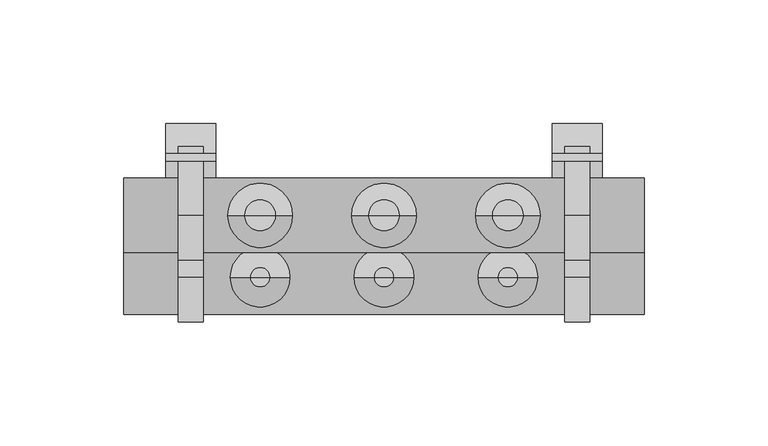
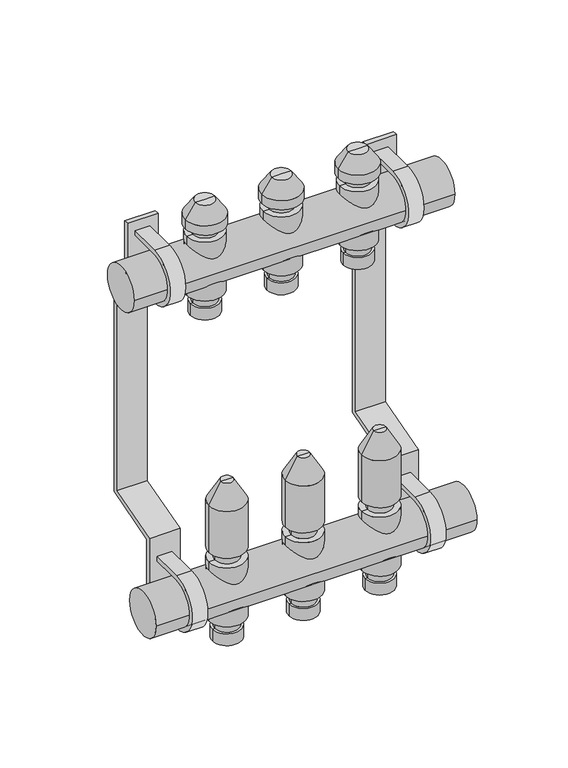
"""IFC4 building model written with IfcOpenShell, lengths in millimetres: valve geometry, PL CZ_Manifold_FT-VA : 03 circuits."""

from ifc_helpers import new_model, si_unit, point, frame, frame_2d, origin, origin_2d, place, context, project, spatial, polyline, circle_curve, trimmed, segment, composite_curve, outline, extrude, source, transform, mapped, element, save
from ifc_brep_helpers import plane_surface, cylinder_surface, revolved_surface, advanced_brep


def valve_d8e88841(model_context):
    return source(origin(), model_context, "Body", "SolidModel", [
        advanced_brep(
        [(78.5, 0.0, -35.11267), (97.5, 0.0, -35.11267), (88.0, 0.0, -35.11267), (78.5, 0.0, -27.0369646), (97.5, 0.0, -27.0369646), (80.0, 0.0, -27.0369646), (96.0, 0.0, -27.0369646), (80.0, 0.0, -20.330253), (96.0, 0.0, -20.330253), (76.0, 0.0, -20.330253), (100.0, 0.0, -20.330253), (76.0, 0.0, 20.330253), (100.0, 0.0, 20.330253), (80.0, 0.0, 20.330253), (96.0, 0.0, 20.330253), (80.0, 0.0, 27.0474786), (96.0, 0.0, 27.0474786), (76.0, 0.0, 27.0474786), (100.0, 0.0, 27.0474786), (76.0, 0.0, 59.4084325), (100.0, 0.0, 59.4084325), (84.0, 0.0, 73.264839), (92.0, 0.0, 73.264839), (88.0, 0.0, 73.264839)],
        [
            (0, 1, circle_curve(frame((88.0, 0.0, -35.11267), z_axis=(0.0, 0.0, -1.0), x_axis=(1.0, 0.0, 0.0)), 9.5)),
            (1, 2),
            (2, 0),
            (1, 0, circle_curve(frame((88.0, 0.0, -35.11267), z_axis=(0.0, 0.0, -1.0), x_axis=(1.0, 0.0, 0.0)), 9.5)),
            (3, 4, circle_curve(frame((88.0, 0.0, -27.0369646), z_axis=(0.0, 0.0, -1.0), x_axis=(1.0, 0.0, 0.0)), 9.5)),
            (4, 1),
            (0, 3),
            (4, 3, circle_curve(frame((88.0, 0.0, -27.0369646), z_axis=(0.0, 0.0, -1.0), x_axis=(1.0, 0.0, 0.0)), 9.5)),
            (5, 6, circle_curve(frame((88.0, 0.0, -27.0369646), z_axis=(0.0, 0.0, -1.0), x_axis=(1.0, 0.0, 0.0)), 8.0)),
            (6, 4),
            (3, 5),
            (6, 5, circle_curve(frame((88.0, 0.0, -27.0369646), z_axis=(0.0, 0.0, -1.0), x_axis=(1.0, 0.0, 0.0)), 8.0)),
            (7, 8, circle_curve(frame((88.0, 0.0, -20.330253), z_axis=(0.0, 0.0, -1.0), x_axis=(1.0, 0.0, 0.0)), 8.0)),
            (8, 6),
            (5, 7),
            (8, 7, circle_curve(frame((88.0, 0.0, -20.330253), z_axis=(0.0, 0.0, -1.0), x_axis=(1.0, 0.0, 0.0)), 8.0)),
            (9, 10, circle_curve(frame((88.0, 0.0, -20.330253), z_axis=(0.0, 0.0, -1.0), x_axis=(1.0, 0.0, 0.0)), 12.0)),
            (10, 8),
            (7, 9),
            (10, 9, circle_curve(frame((88.0, 0.0, -20.330253), z_axis=(0.0, 0.0, -1.0), x_axis=(1.0, 0.0, 0.0)), 12.0)),
            (11, 12, circle_curve(frame((88.0, 0.0, 20.330253), z_axis=(0.0, 0.0, -1.0), x_axis=(1.0, 0.0, 0.0)), 12.0)),
            (12, 10),
            (9, 11),
            (12, 11, circle_curve(frame((88.0, 0.0, 20.330253), z_axis=(0.0, 0.0, -1.0), x_axis=(1.0, 0.0, 0.0)), 12.0)),
            (13, 14, circle_curve(frame((88.0, 0.0, 20.330253), z_axis=(0.0, 0.0, -1.0), x_axis=(1.0, 0.0, 0.0)), 8.0)),
            (14, 12),
            (11, 13),
            (14, 13, circle_curve(frame((88.0, 0.0, 20.330253), z_axis=(0.0, 0.0, -1.0), x_axis=(1.0, 0.0, 0.0)), 8.0)),
            (15, 16, circle_curve(frame((88.0, 0.0, 27.0474786), z_axis=(0.0, 0.0, -1.0), x_axis=(1.0, 0.0, 0.0)), 8.0)),
            (16, 14),
            (13, 15),
            (16, 15, circle_curve(frame((88.0, 0.0, 27.0474786), z_axis=(0.0, 0.0, -1.0), x_axis=(1.0, 0.0, 0.0)), 8.0)),
            (17, 18, circle_curve(frame((88.0, 0.0, 27.0474786), z_axis=(0.0, 0.0, -1.0), x_axis=(1.0, 0.0, 0.0)), 12.0)),
            (18, 16),
            (15, 17),
            (18, 17, circle_curve(frame((88.0, 0.0, 27.0474786), z_axis=(0.0, 0.0, -1.0), x_axis=(1.0, 0.0, 0.0)), 12.0)),
            (19, 20, circle_curve(frame((88.0, 0.0, 59.4084325), z_axis=(0.0, 0.0, -1.0), x_axis=(1.0, 0.0, 0.0)), 12.0)),
            (20, 18),
            (17, 19),
            (20, 19, circle_curve(frame((88.0, 0.0, 59.4084325), z_axis=(0.0, 0.0, -1.0), x_axis=(1.0, 0.0, 0.0)), 12.0)),
            (21, 22, circle_curve(frame((88.0, 0.0, 73.264839), z_axis=(0.0, 0.0, -1.0), x_axis=(1.0, 0.0, 0.0)), 4.0)),
            (22, 20),
            (19, 21),
            (22, 21, circle_curve(frame((88.0, 0.0, 73.264839), z_axis=(0.0, 0.0, -1.0), x_axis=(1.0, 0.0, 0.0)), 4.0)),
            (23, 22),
            (21, 23),
        ],
        [
            plane_surface(frame((88.0, 0.0, -35.11267), z_axis=(0.0, 0.0, -1.0), x_axis=(1.0, 0.0, 0.0))),
            cylinder_surface(frame((88.0, 0.0, 58.264839), z_axis=(0.0, 0.0, 1.0), x_axis=(1.0, 0.0, 0.0)), 9.5),
            plane_surface(frame((88.0, 0.0, -27.0369646), z_axis=(0.0, 0.0, 1.0), x_axis=(1.0, 0.0, 0.0))),
            cylinder_surface(frame((88.0, 0.0, 58.264839), z_axis=(0.0, 0.0, 1.0), x_axis=(1.0, 0.0, 0.0)), 8.0),
            plane_surface(frame((88.0, 0.0, -20.330253), z_axis=(0.0, 0.0, -1.0), x_axis=(1.0, 0.0, 0.0))),
            cylinder_surface(frame((88.0, 0.0, 58.264839), z_axis=(0.0, 0.0, 1.0), x_axis=(1.0, 0.0, 0.0)), 12.0),
            plane_surface(frame((88.0, 0.0, 20.330253), z_axis=(0.0, 0.0, 1.0), x_axis=(1.0, 0.0, 0.0))),
            plane_surface(frame((88.0, 0.0, 27.0474786), z_axis=(0.0, 0.0, -1.0), x_axis=(1.0, 0.0, 0.0))),
            revolved_surface(polyline([(100.0, 0.0, 59.4084325), (92.0, 0.0, 73.264839)]), (88.0, 0.0, 58.264839), (0.0, 0.0, 1.0)),
            plane_surface(frame((88.0, 0.0, 73.264839), z_axis=(0.0, 0.0, 1.0), x_axis=(1.0, 0.0, 0.0))),
        ],
        [
            (0, [[1, 2, 3]]),
            (0, [[4, -3, -2]]),
            (1, [[5, 6, -1, 7]]),
            (1, [[8, -7, -4, -6]]),
            (2, [[9, 10, -5, 11]]),
            (2, [[12, -11, -8, -10]]),
            (3, [[13, 14, -9, 15]]),
            (3, [[16, -15, -12, -14]]),
            (4, [[17, 18, -13, 19]]),
            (4, [[20, -19, -16, -18]]),
            (5, [[21, 22, -17, 23]]),
            (5, [[24, -23, -20, -22]]),
            (6, [[25, 26, -21, 27]]),
            (6, [[28, -27, -24, -26]]),
            (3, [[29, 30, -25, 31]]),
            (3, [[32, -31, -28, -30]]),
            (7, [[33, 34, -29, 35]]),
            (7, [[36, -35, -32, -34]]),
            (5, [[37, 38, -33, 39]]),
            (5, [[40, -39, -36, -38]]),
            (8, [[41, 42, -37, 43]]),
            (8, [[44, -43, -40, -42]]),
            (9, [[45, -41, 46]]),
            (9, [[-46, -44, -45]]),
        ],
    ),
        advanced_brep(
        [(78.5, 25.0, 174.88733), (97.5, 25.0, 174.88733), (88.0, 25.0, 174.88733), (78.5, 25.0, 182.9630354), (97.5, 25.0, 182.9630354), (80.0, 25.0, 182.9630354), (96.0, 25.0, 182.9630354), (80.0, 25.0, 189.669747), (96.0, 25.0, 189.669747), (76.0, 25.0, 189.669747), (100.0, 25.0, 189.669747), (76.0, 25.0, 230.330253), (100.0, 25.0, 230.330253), (80.0, 25.0, 230.330253), (96.0, 25.0, 230.330253), (80.0, 25.0, 236.0474786), (96.0, 25.0, 236.0474786), (75.0, 25.0, 236.0474786), (101.0, 25.0, 236.0474786), (75.0, 25.0, 242.337955), (101.0, 25.0, 242.337955), (81.6551779, 25.0, 251.842534), (94.3448221, 25.0, 251.842534), (88.0, 25.0, 251.842534)],
        [
            (0, 1, circle_curve(frame((88.0, 25.0, 174.88733), z_axis=(0.0, 0.0, -1.0), x_axis=(1.0, 0.0, 0.0)), 9.5)),
            (1, 2),
            (2, 0),
            (1, 0, circle_curve(frame((88.0, 25.0, 174.88733), z_axis=(0.0, 0.0, -1.0), x_axis=(1.0, 0.0, 0.0)), 9.5)),
            (3, 4, circle_curve(frame((88.0, 25.0, 182.9630354), z_axis=(0.0, 0.0, -1.0), x_axis=(1.0, 0.0, 0.0)), 9.5)),
            (4, 1),
            (0, 3),
            (4, 3, circle_curve(frame((88.0, 25.0, 182.9630354), z_axis=(0.0, 0.0, -1.0), x_axis=(1.0, 0.0, 0.0)), 9.5)),
            (5, 6, circle_curve(frame((88.0, 25.0, 182.9630354), z_axis=(0.0, 0.0, -1.0), x_axis=(1.0, 0.0, 0.0)), 8.0)),
            (6, 4),
            (3, 5),
            (6, 5, circle_curve(frame((88.0, 25.0, 182.9630354), z_axis=(0.0, 0.0, -1.0), x_axis=(1.0, 0.0, 0.0)), 8.0)),
            (7, 8, circle_curve(frame((88.0, 25.0, 189.669747), z_axis=(0.0, 0.0, -1.0), x_axis=(1.0, 0.0, 0.0)), 8.0)),
            (8, 6),
            (5, 7),
            (8, 7, circle_curve(frame((88.0, 25.0, 189.669747), z_axis=(0.0, 0.0, -1.0), x_axis=(1.0, 0.0, 0.0)), 8.0)),
            (9, 10, circle_curve(frame((88.0, 25.0, 189.669747), z_axis=(0.0, 0.0, -1.0), x_axis=(1.0, 0.0, 0.0)), 12.0)),
            (10, 8),
            (7, 9),
            (10, 9, circle_curve(frame((88.0, 25.0, 189.669747), z_axis=(0.0, 0.0, -1.0), x_axis=(1.0, 0.0, 0.0)), 12.0)),
            (11, 12, circle_curve(frame((88.0, 25.0, 230.330253), z_axis=(0.0, 0.0, -1.0), x_axis=(1.0, 0.0, 0.0)), 12.0)),
            (12, 10),
            (9, 11),
            (12, 11, circle_curve(frame((88.0, 25.0, 230.330253), z_axis=(0.0, 0.0, -1.0), x_axis=(1.0, 0.0, 0.0)), 12.0)),
            (13, 14, circle_curve(frame((88.0, 25.0, 230.330253), z_axis=(0.0, 0.0, -1.0), x_axis=(1.0, 0.0, 0.0)), 8.0)),
            (14, 12),
            (11, 13),
            (14, 13, circle_curve(frame((88.0, 25.0, 230.330253), z_axis=(0.0, 0.0, -1.0), x_axis=(1.0, 0.0, 0.0)), 8.0)),
            (15, 16, circle_curve(frame((88.0, 25.0, 236.0474786), z_axis=(0.0, 0.0, -1.0), x_axis=(1.0, 0.0, 0.0)), 8.0)),
            (16, 14),
            (13, 15),
            (16, 15, circle_curve(frame((88.0, 25.0, 236.0474786), z_axis=(0.0, 0.0, -1.0), x_axis=(1.0, 0.0, 0.0)), 8.0)),
            (17, 18, circle_curve(frame((88.0, 25.0, 236.0474786), z_axis=(0.0, 0.0, -1.0), x_axis=(1.0, 0.0, 0.0)), 13.0)),
            (18, 16),
            (15, 17),
            (18, 17, circle_curve(frame((88.0, 25.0, 236.0474786), z_axis=(0.0, 0.0, -1.0), x_axis=(1.0, 0.0, 0.0)), 13.0)),
            (19, 20, circle_curve(frame((88.0, 25.0, 242.337955), z_axis=(0.0, 0.0, -1.0), x_axis=(1.0, 0.0, 0.0)), 13.0)),
            (20, 18),
            (17, 19),
            (20, 19, circle_curve(frame((88.0, 25.0, 242.337955), z_axis=(0.0, 0.0, -1.0), x_axis=(1.0, 0.0, 0.0)), 13.0)),
            (21, 22, circle_curve(frame((88.0, 25.0, 251.842534), z_axis=(0.0, 0.0, -1.0), x_axis=(1.0, 0.0, 0.0)), 6.3448221)),
            (22, 20),
            (19, 21),
            (22, 21, circle_curve(frame((88.0, 25.0, 251.842534), z_axis=(0.0, 0.0, -1.0), x_axis=(1.0, 0.0, 0.0)), 6.3448221)),
            (23, 22),
            (21, 23),
        ],
        [
            plane_surface(frame((88.0, 25.0, 174.88733), z_axis=(0.0, 0.0, -1.0), x_axis=(1.0, 0.0, 0.0))),
            cylinder_surface(frame((88.0, 25.0, 247.7026565), z_axis=(0.0, 0.0, 1.0), x_axis=(1.0, 0.0, 0.0)), 9.5),
            plane_surface(frame((88.0, 25.0, 182.9630354), z_axis=(0.0, 0.0, 1.0), x_axis=(1.0, 0.0, 0.0))),
            cylinder_surface(frame((88.0, 25.0, 247.7026565), z_axis=(0.0, 0.0, 1.0), x_axis=(1.0, 0.0, 0.0)), 8.0),
            plane_surface(frame((88.0, 25.0, 189.669747), z_axis=(0.0, 0.0, -1.0), x_axis=(1.0, 0.0, 0.0))),
            cylinder_surface(frame((88.0, 25.0, 247.7026565), z_axis=(0.0, 0.0, 1.0), x_axis=(1.0, 0.0, 0.0)), 12.0),
            plane_surface(frame((88.0, 25.0, 230.330253), z_axis=(0.0, 0.0, 1.0), x_axis=(1.0, 0.0, 0.0))),
            plane_surface(frame((88.0, 25.0, 236.0474786), z_axis=(0.0, 0.0, -1.0), x_axis=(1.0, 0.0, 0.0))),
            cylinder_surface(frame((88.0, 25.0, 247.7026565), z_axis=(0.0, 0.0, 1.0), x_axis=(1.0, 0.0, 0.0)), 13.0),
            revolved_surface(polyline([(101.0, 25.0, 242.337955), (94.3448221, 25.0, 251.842534)]), (88.0, 25.0, 247.7026565), (0.0, 0.0, 1.0)),
            plane_surface(frame((88.0, 25.0, 251.842534), z_axis=(0.0, 0.0, 1.0), x_axis=(1.0, 0.0, 0.0))),
        ],
        [
            (0, [[1, 2, 3]]),
            (0, [[4, -3, -2]]),
            (1, [[5, 6, -1, 7]]),
            (1, [[8, -7, -4, -6]]),
            (2, [[9, 10, -5, 11]]),
            (2, [[12, -11, -8, -10]]),
            (3, [[13, 14, -9, 15]]),
            (3, [[16, -15, -12, -14]]),
            (4, [[17, 18, -13, 19]]),
            (4, [[20, -19, -16, -18]]),
            (5, [[21, 22, -17, 23]]),
            (5, [[24, -23, -20, -22]]),
            (6, [[25, 26, -21, 27]]),
            (6, [[28, -27, -24, -26]]),
            (3, [[29, 30, -25, 31]]),
            (3, [[32, -31, -28, -30]]),
            (7, [[33, 34, -29, 35]]),
            (7, [[36, -35, -32, -34]]),
            (8, [[37, 38, -33, 39]]),
            (8, [[40, -39, -36, -38]]),
            (9, [[41, 42, -37, 43]]),
            (9, [[44, -43, -40, -42]]),
            (10, [[45, -41, 46]]),
            (10, [[-46, -44, -45]]),
        ],
    ),
        advanced_brep(
        [(128.5, 0.0, -35.11267), (147.5, 0.0, -35.11267), (138.0, 0.0, -35.11267), (128.5, 0.0, -27.0369646), (147.5, 0.0, -27.0369646), (130.0, 0.0, -27.0369646), (146.0, 0.0, -27.0369646), (130.0, 0.0, -20.330253), (146.0, 0.0, -20.330253), (126.0, 0.0, -20.330253), (150.0, 0.0, -20.330253), (126.0, 0.0, 20.330253), (150.0, 0.0, 20.330253), (130.0, 0.0, 20.330253), (146.0, 0.0, 20.330253), (130.0, 0.0, 27.0474786), (146.0, 0.0, 27.0474786), (126.0, 0.0, 27.0474786), (150.0, 0.0, 27.0474786), (126.0, 0.0, 59.4084325), (150.0, 0.0, 59.4084325), (134.0, 0.0, 73.264839), (142.0, 0.0, 73.264839), (138.0, 0.0, 73.264839)],
        [
            (0, 1, circle_curve(frame((138.0, 0.0, -35.11267), z_axis=(0.0, 0.0, -1.0), x_axis=(1.0, 0.0, 0.0)), 9.5)),
            (1, 2),
            (2, 0),
            (1, 0, circle_curve(frame((138.0, 0.0, -35.11267), z_axis=(0.0, 0.0, -1.0), x_axis=(1.0, 0.0, 0.0)), 9.5)),
            (3, 4, circle_curve(frame((138.0, 0.0, -27.0369646), z_axis=(0.0, 0.0, -1.0), x_axis=(1.0, 0.0, 0.0)), 9.5)),
            (4, 1),
            (0, 3),
            (4, 3, circle_curve(frame((138.0, 0.0, -27.0369646), z_axis=(0.0, 0.0, -1.0), x_axis=(1.0, 0.0, 0.0)), 9.5)),
            (5, 6, circle_curve(frame((138.0, 0.0, -27.0369646), z_axis=(0.0, 0.0, -1.0), x_axis=(1.0, 0.0, 0.0)), 8.0)),
            (6, 4),
            (3, 5),
            (6, 5, circle_curve(frame((138.0, 0.0, -27.0369646), z_axis=(0.0, 0.0, -1.0), x_axis=(1.0, 0.0, 0.0)), 8.0)),
            (7, 8, circle_curve(frame((138.0, 0.0, -20.330253), z_axis=(0.0, 0.0, -1.0), x_axis=(1.0, 0.0, 0.0)), 8.0)),
            (8, 6),
            (5, 7),
            (8, 7, circle_curve(frame((138.0, 0.0, -20.330253), z_axis=(0.0, 0.0, -1.0), x_axis=(1.0, 0.0, 0.0)), 8.0)),
            (9, 10, circle_curve(frame((138.0, 0.0, -20.330253), z_axis=(0.0, 0.0, -1.0), x_axis=(1.0, 0.0, 0.0)), 12.0)),
            (10, 8),
            (7, 9),
            (10, 9, circle_curve(frame((138.0, 0.0, -20.330253), z_axis=(0.0, 0.0, -1.0), x_axis=(1.0, 0.0, 0.0)), 12.0)),
            (11, 12, circle_curve(frame((138.0, 0.0, 20.330253), z_axis=(0.0, 0.0, -1.0), x_axis=(1.0, 0.0, 0.0)), 12.0)),
            (12, 10),
            (9, 11),
            (12, 11, circle_curve(frame((138.0, 0.0, 20.330253), z_axis=(0.0, 0.0, -1.0), x_axis=(1.0, 0.0, 0.0)), 12.0)),
            (13, 14, circle_curve(frame((138.0, 0.0, 20.330253), z_axis=(0.0, 0.0, -1.0), x_axis=(1.0, 0.0, 0.0)), 8.0)),
            (14, 12),
            (11, 13),
            (14, 13, circle_curve(frame((138.0, 0.0, 20.330253), z_axis=(0.0, 0.0, -1.0), x_axis=(1.0, 0.0, 0.0)), 8.0)),
            (15, 16, circle_curve(frame((138.0, 0.0, 27.0474786), z_axis=(0.0, 0.0, -1.0), x_axis=(1.0, 0.0, 0.0)), 8.0)),
            (16, 14),
            (13, 15),
            (16, 15, circle_curve(frame((138.0, 0.0, 27.0474786), z_axis=(0.0, 0.0, -1.0), x_axis=(1.0, 0.0, 0.0)), 8.0)),
            (17, 18, circle_curve(frame((138.0, 0.0, 27.0474786), z_axis=(0.0, 0.0, -1.0), x_axis=(1.0, 0.0, 0.0)), 12.0)),
            (18, 16),
            (15, 17),
            (18, 17, circle_curve(frame((138.0, 0.0, 27.0474786), z_axis=(0.0, 0.0, -1.0), x_axis=(1.0, 0.0, 0.0)), 12.0)),
            (19, 20, circle_curve(frame((138.0, 0.0, 59.4084325), z_axis=(0.0, 0.0, -1.0), x_axis=(1.0, 0.0, 0.0)), 12.0)),
            (20, 18),
            (17, 19),
            (20, 19, circle_curve(frame((138.0, 0.0, 59.4084325), z_axis=(0.0, 0.0, -1.0), x_axis=(1.0, 0.0, 0.0)), 12.0)),
            (21, 22, circle_curve(frame((138.0, 0.0, 73.264839), z_axis=(0.0, 0.0, -1.0), x_axis=(1.0, 0.0, 0.0)), 4.0)),
            (22, 20),
            (19, 21),
            (22, 21, circle_curve(frame((138.0, 0.0, 73.264839), z_axis=(0.0, 0.0, -1.0), x_axis=(1.0, 0.0, 0.0)), 4.0)),
            (23, 22),
            (21, 23),
        ],
        [
            plane_surface(frame((138.0, 0.0, -35.11267), z_axis=(0.0, 0.0, -1.0), x_axis=(1.0, 0.0, 0.0))),
            cylinder_surface(frame((138.0, 0.0, 58.264839), z_axis=(0.0, 0.0, 1.0), x_axis=(1.0, 0.0, 0.0)), 9.5),
            plane_surface(frame((138.0, 0.0, -27.0369646), z_axis=(0.0, 0.0, 1.0), x_axis=(1.0, 0.0, 0.0))),
            cylinder_surface(frame((138.0, 0.0, 58.264839), z_axis=(0.0, 0.0, 1.0), x_axis=(1.0, 0.0, 0.0)), 8.0),
            plane_surface(frame((138.0, 0.0, -20.330253), z_axis=(0.0, 0.0, -1.0), x_axis=(1.0, 0.0, 0.0))),
            cylinder_surface(frame((138.0, 0.0, 58.264839), z_axis=(0.0, 0.0, 1.0), x_axis=(1.0, 0.0, 0.0)), 12.0),
            plane_surface(frame((138.0, 0.0, 20.330253), z_axis=(0.0, 0.0, 1.0), x_axis=(1.0, 0.0, 0.0))),
            plane_surface(frame((138.0, 0.0, 27.0474786), z_axis=(0.0, 0.0, -1.0), x_axis=(1.0, 0.0, 0.0))),
            revolved_surface(polyline([(150.0, 0.0, 59.4084325), (142.0, 0.0, 73.264839)]), (138.0, 0.0, 58.264839), (0.0, 0.0, 1.0)),
            plane_surface(frame((138.0, 0.0, 73.264839), z_axis=(0.0, 0.0, 1.0), x_axis=(1.0, 0.0, 0.0))),
        ],
        [
            (0, [[1, 2, 3]]),
            (0, [[4, -3, -2]]),
            (1, [[5, 6, -1, 7]]),
            (1, [[8, -7, -4, -6]]),
            (2, [[9, 10, -5, 11]]),
            (2, [[12, -11, -8, -10]]),
            (3, [[13, 14, -9, 15]]),
            (3, [[16, -15, -12, -14]]),
            (4, [[17, 18, -13, 19]]),
            (4, [[20, -19, -16, -18]]),
            (5, [[21, 22, -17, 23]]),
            (5, [[24, -23, -20, -22]]),
            (6, [[25, 26, -21, 27]]),
            (6, [[28, -27, -24, -26]]),
            (3, [[29, 30, -25, 31]]),
            (3, [[32, -31, -28, -30]]),
            (7, [[33, 34, -29, 35]]),
            (7, [[36, -35, -32, -34]]),
            (5, [[37, 38, -33, 39]]),
            (5, [[40, -39, -36, -38]]),
            (8, [[41, 42, -37, 43]]),
            (8, [[44, -43, -40, -42]]),
            (9, [[45, -41, 46]]),
            (9, [[-46, -44, -45]]),
        ],
    ),
        advanced_brep(
        [(128.5, 25.0, 174.88733), (147.5, 25.0, 174.88733), (138.0, 25.0, 174.88733), (128.5, 25.0, 182.9630354), (147.5, 25.0, 182.9630354), (130.0, 25.0, 182.9630354), (146.0, 25.0, 182.9630354), (130.0, 25.0, 189.669747), (146.0, 25.0, 189.669747), (126.0, 25.0, 189.669747), (150.0, 25.0, 189.669747), (126.0, 25.0, 230.330253), (150.0, 25.0, 230.330253), (130.0, 25.0, 230.330253), (146.0, 25.0, 230.330253), (130.0, 25.0, 236.0474786), (146.0, 25.0, 236.0474786), (125.0, 25.0, 236.0474786), (151.0, 25.0, 236.0474786), (125.0, 25.0, 242.337955), (151.0, 25.0, 242.337955), (131.6551779, 25.0, 251.842534), (144.3448221, 25.0, 251.842534), (138.0, 25.0, 251.842534)],
        [
            (0, 1, circle_curve(frame((138.0, 25.0, 174.88733), z_axis=(0.0, 0.0, -1.0), x_axis=(1.0, 0.0, 0.0)), 9.5)),
            (1, 2),
            (2, 0),
            (1, 0, circle_curve(frame((138.0, 25.0, 174.88733), z_axis=(0.0, 0.0, -1.0), x_axis=(1.0, 0.0, 0.0)), 9.5)),
            (3, 4, circle_curve(frame((138.0, 25.0, 182.9630354), z_axis=(0.0, 0.0, -1.0), x_axis=(1.0, 0.0, 0.0)), 9.5)),
            (4, 1),
            (0, 3),
            (4, 3, circle_curve(frame((138.0, 25.0, 182.9630354), z_axis=(0.0, 0.0, -1.0), x_axis=(1.0, 0.0, 0.0)), 9.5)),
            (5, 6, circle_curve(frame((138.0, 25.0, 182.9630354), z_axis=(0.0, 0.0, -1.0), x_axis=(1.0, 0.0, 0.0)), 8.0)),
            (6, 4),
            (3, 5),
            (6, 5, circle_curve(frame((138.0, 25.0, 182.9630354), z_axis=(0.0, 0.0, -1.0), x_axis=(1.0, 0.0, 0.0)), 8.0)),
            (7, 8, circle_curve(frame((138.0, 25.0, 189.669747), z_axis=(0.0, 0.0, -1.0), x_axis=(1.0, 0.0, 0.0)), 8.0)),
            (8, 6),
            (5, 7),
            (8, 7, circle_curve(frame((138.0, 25.0, 189.669747), z_axis=(0.0, 0.0, -1.0), x_axis=(1.0, 0.0, 0.0)), 8.0)),
            (9, 10, circle_curve(frame((138.0, 25.0, 189.669747), z_axis=(0.0, 0.0, -1.0), x_axis=(1.0, 0.0, 0.0)), 12.0)),
            (10, 8),
            (7, 9),
            (10, 9, circle_curve(frame((138.0, 25.0, 189.669747), z_axis=(0.0, 0.0, -1.0), x_axis=(1.0, 0.0, 0.0)), 12.0)),
            (11, 12, circle_curve(frame((138.0, 25.0, 230.330253), z_axis=(0.0, 0.0, -1.0), x_axis=(1.0, 0.0, 0.0)), 12.0)),
            (12, 10),
            (9, 11),
            (12, 11, circle_curve(frame((138.0, 25.0, 230.330253), z_axis=(0.0, 0.0, -1.0), x_axis=(1.0, 0.0, 0.0)), 12.0)),
            (13, 14, circle_curve(frame((138.0, 25.0, 230.330253), z_axis=(0.0, 0.0, -1.0), x_axis=(1.0, 0.0, 0.0)), 8.0)),
            (14, 12),
            (11, 13),
            (14, 13, circle_curve(frame((138.0, 25.0, 230.330253), z_axis=(0.0, 0.0, -1.0), x_axis=(1.0, 0.0, 0.0)), 8.0)),
            (15, 16, circle_curve(frame((138.0, 25.0, 236.0474786), z_axis=(0.0, 0.0, -1.0), x_axis=(1.0, 0.0, 0.0)), 8.0)),
            (16, 14),
            (13, 15),
            (16, 15, circle_curve(frame((138.0, 25.0, 236.0474786), z_axis=(0.0, 0.0, -1.0), x_axis=(1.0, 0.0, 0.0)), 8.0)),
            (17, 18, circle_curve(frame((138.0, 25.0, 236.0474786), z_axis=(0.0, 0.0, -1.0), x_axis=(1.0, 0.0, 0.0)), 13.0)),
            (18, 16),
            (15, 17),
            (18, 17, circle_curve(frame((138.0, 25.0, 236.0474786), z_axis=(0.0, 0.0, -1.0), x_axis=(1.0, 0.0, 0.0)), 13.0)),
            (19, 20, circle_curve(frame((138.0, 25.0, 242.337955), z_axis=(0.0, 0.0, -1.0), x_axis=(1.0, 0.0, 0.0)), 13.0)),
            (20, 18),
            (17, 19),
            (20, 19, circle_curve(frame((138.0, 25.0, 242.337955), z_axis=(0.0, 0.0, -1.0), x_axis=(1.0, 0.0, 0.0)), 13.0)),
            (21, 22, circle_curve(frame((138.0, 25.0, 251.842534), z_axis=(0.0, 0.0, -1.0), x_axis=(1.0, 0.0, 0.0)), 6.3448221)),
            (22, 20),
            (19, 21),
            (22, 21, circle_curve(frame((138.0, 25.0, 251.842534), z_axis=(0.0, 0.0, -1.0), x_axis=(1.0, 0.0, 0.0)), 6.3448221)),
            (23, 22),
            (21, 23),
        ],
        [
            plane_surface(frame((138.0, 25.0, 174.88733), z_axis=(0.0, 0.0, -1.0), x_axis=(1.0, 0.0, 0.0))),
            cylinder_surface(frame((138.0, 25.0, 247.7026565), z_axis=(0.0, 0.0, 1.0), x_axis=(1.0, 0.0, 0.0)), 9.5),
            plane_surface(frame((138.0, 25.0, 182.9630354), z_axis=(0.0, 0.0, 1.0), x_axis=(1.0, 0.0, 0.0))),
            cylinder_surface(frame((138.0, 25.0, 247.7026565), z_axis=(0.0, 0.0, 1.0), x_axis=(1.0, 0.0, 0.0)), 8.0),
            plane_surface(frame((138.0, 25.0, 189.669747), z_axis=(0.0, 0.0, -1.0), x_axis=(1.0, 0.0, 0.0))),
            cylinder_surface(frame((138.0, 25.0, 247.7026565), z_axis=(0.0, 0.0, 1.0), x_axis=(1.0, 0.0, 0.0)), 12.0),
            plane_surface(frame((138.0, 25.0, 230.330253), z_axis=(0.0, 0.0, 1.0), x_axis=(1.0, 0.0, 0.0))),
            plane_surface(frame((138.0, 25.0, 236.0474786), z_axis=(0.0, 0.0, -1.0), x_axis=(1.0, 0.0, 0.0))),
            cylinder_surface(frame((138.0, 25.0, 247.7026565), z_axis=(0.0, 0.0, 1.0), x_axis=(1.0, 0.0, 0.0)), 13.0),
            revolved_surface(polyline([(151.0, 25.0, 242.337955), (144.3448221, 25.0, 251.842534)]), (138.0, 25.0, 247.7026565), (0.0, 0.0, 1.0)),
            plane_surface(frame((138.0, 25.0, 251.842534), z_axis=(0.0, 0.0, 1.0), x_axis=(1.0, 0.0, 0.0))),
        ],
        [
            (0, [[1, 2, 3]]),
            (0, [[4, -3, -2]]),
            (1, [[5, 6, -1, 7]]),
            (1, [[8, -7, -4, -6]]),
            (2, [[9, 10, -5, 11]]),
            (2, [[12, -11, -8, -10]]),
            (3, [[13, 14, -9, 15]]),
            (3, [[16, -15, -12, -14]]),
            (4, [[17, 18, -13, 19]]),
            (4, [[20, -19, -16, -18]]),
            (5, [[21, 22, -17, 23]]),
            (5, [[24, -23, -20, -22]]),
            (6, [[25, 26, -21, 27]]),
            (6, [[28, -27, -24, -26]]),
            (3, [[29, 30, -25, 31]]),
            (3, [[32, -31, -28, -30]]),
            (7, [[33, 34, -29, 35]]),
            (7, [[36, -35, -32, -34]]),
            (8, [[37, 38, -33, 39]]),
            (8, [[40, -39, -36, -38]]),
            (9, [[41, 42, -37, 43]]),
            (9, [[44, -43, -40, -42]]),
            (10, [[45, -41, 46]]),
            (10, [[-46, -44, -45]]),
        ],
    ),
        advanced_brep(
        [(28.5, 25.0, 174.88733), (47.5, 25.0, 174.88733), (38.0, 25.0, 174.88733), (28.5, 25.0, 182.9630354), (47.5, 25.0, 182.9630354), (30.0, 25.0, 182.9630354), (46.0, 25.0, 182.9630354), (30.0, 25.0, 189.669747), (46.0, 25.0, 189.669747), (26.0, 25.0, 189.669747), (50.0, 25.0, 189.669747), (26.0, 25.0, 230.330253), (50.0, 25.0, 230.330253), (30.0, 25.0, 230.330253), (46.0, 25.0, 230.330253), (30.0, 25.0, 236.0474786), (46.0, 25.0, 236.0474786), (25.0, 25.0, 236.0474786), (51.0, 25.0, 236.0474786), (25.0, 25.0, 242.337955), (51.0, 25.0, 242.337955), (31.6551779, 25.0, 251.842534), (44.3448221, 25.0, 251.842534), (38.0, 25.0, 251.842534)],
        [
            (0, 1, circle_curve(frame((38.0, 25.0, 174.88733), z_axis=(0.0, 0.0, -1.0), x_axis=(1.0, 0.0, 0.0)), 9.5)),
            (1, 2),
            (2, 0),
            (1, 0, circle_curve(frame((38.0, 25.0, 174.88733), z_axis=(0.0, 0.0, -1.0), x_axis=(1.0, 0.0, 0.0)), 9.5)),
            (3, 4, circle_curve(frame((38.0, 25.0, 182.9630354), z_axis=(0.0, 0.0, -1.0), x_axis=(1.0, 0.0, 0.0)), 9.5)),
            (4, 1),
            (0, 3),
            (4, 3, circle_curve(frame((38.0, 25.0, 182.9630354), z_axis=(0.0, 0.0, -1.0), x_axis=(1.0, 0.0, 0.0)), 9.5)),
            (5, 6, circle_curve(frame((38.0, 25.0, 182.9630354), z_axis=(0.0, 0.0, -1.0), x_axis=(1.0, 0.0, 0.0)), 8.0)),
            (6, 4),
            (3, 5),
            (6, 5, circle_curve(frame((38.0, 25.0, 182.9630354), z_axis=(0.0, 0.0, -1.0), x_axis=(1.0, 0.0, 0.0)), 8.0)),
            (7, 8, circle_curve(frame((38.0, 25.0, 189.669747), z_axis=(0.0, 0.0, -1.0), x_axis=(1.0, 0.0, 0.0)), 8.0)),
            (8, 6),
            (5, 7),
            (8, 7, circle_curve(frame((38.0, 25.0, 189.669747), z_axis=(0.0, 0.0, -1.0), x_axis=(1.0, 0.0, 0.0)), 8.0)),
            (9, 10, circle_curve(frame((38.0, 25.0, 189.669747), z_axis=(0.0, 0.0, -1.0), x_axis=(1.0, 0.0, 0.0)), 12.0)),
            (10, 8),
            (7, 9),
            (10, 9, circle_curve(frame((38.0, 25.0, 189.669747), z_axis=(0.0, 0.0, -1.0), x_axis=(1.0, 0.0, 0.0)), 12.0)),
            (11, 12, circle_curve(frame((38.0, 25.0, 230.330253), z_axis=(0.0, 0.0, -1.0), x_axis=(1.0, 0.0, 0.0)), 12.0)),
            (12, 10),
            (9, 11),
            (12, 11, circle_curve(frame((38.0, 25.0, 230.330253), z_axis=(0.0, 0.0, -1.0), x_axis=(1.0, 0.0, 0.0)), 12.0)),
            (13, 14, circle_curve(frame((38.0, 25.0, 230.330253), z_axis=(0.0, 0.0, -1.0), x_axis=(1.0, 0.0, 0.0)), 8.0)),
            (14, 12),
            (11, 13),
            (14, 13, circle_curve(frame((38.0, 25.0, 230.330253), z_axis=(0.0, 0.0, -1.0), x_axis=(1.0, 0.0, 0.0)), 8.0)),
            (15, 16, circle_curve(frame((38.0, 25.0, 236.0474786), z_axis=(0.0, 0.0, -1.0), x_axis=(1.0, 0.0, 0.0)), 8.0)),
            (16, 14),
            (13, 15),
            (16, 15, circle_curve(frame((38.0, 25.0, 236.0474786), z_axis=(0.0, 0.0, -1.0), x_axis=(1.0, 0.0, 0.0)), 8.0)),
            (17, 18, circle_curve(frame((38.0, 25.0, 236.0474786), z_axis=(0.0, 0.0, -1.0), x_axis=(1.0, 0.0, 0.0)), 13.0)),
            (18, 16),
            (15, 17),
            (18, 17, circle_curve(frame((38.0, 25.0, 236.0474786), z_axis=(0.0, 0.0, -1.0), x_axis=(1.0, 0.0, 0.0)), 13.0)),
            (19, 20, circle_curve(frame((38.0, 25.0, 242.337955), z_axis=(0.0, 0.0, -1.0), x_axis=(1.0, 0.0, 0.0)), 13.0)),
            (20, 18),
            (17, 19),
            (20, 19, circle_curve(frame((38.0, 25.0, 242.337955), z_axis=(0.0, 0.0, -1.0), x_axis=(1.0, 0.0, 0.0)), 13.0)),
            (21, 22, circle_curve(frame((38.0, 25.0, 251.842534), z_axis=(0.0, 0.0, -1.0), x_axis=(1.0, 0.0, 0.0)), 6.3448221)),
            (22, 20),
            (19, 21),
            (22, 21, circle_curve(frame((38.0, 25.0, 251.842534), z_axis=(0.0, 0.0, -1.0), x_axis=(1.0, 0.0, 0.0)), 6.3448221)),
            (23, 22),
            (21, 23),
        ],
        [
            plane_surface(frame((38.0, 25.0, 174.88733), z_axis=(0.0, 0.0, -1.0), x_axis=(1.0, 0.0, 0.0))),
            cylinder_surface(frame((38.0, 25.0, 247.7026565), z_axis=(0.0, 0.0, 1.0), x_axis=(1.0, 0.0, 0.0)), 9.5),
            plane_surface(frame((38.0, 25.0, 182.9630354), z_axis=(0.0, 0.0, 1.0), x_axis=(1.0, 0.0, 0.0))),
            cylinder_surface(frame((38.0, 25.0, 247.7026565), z_axis=(0.0, 0.0, 1.0), x_axis=(1.0, 0.0, 0.0)), 8.0),
            plane_surface(frame((38.0, 25.0, 189.669747), z_axis=(0.0, 0.0, -1.0), x_axis=(1.0, 0.0, 0.0))),
            cylinder_surface(frame((38.0, 25.0, 247.7026565), z_axis=(0.0, 0.0, 1.0), x_axis=(1.0, 0.0, 0.0)), 12.0),
            plane_surface(frame((38.0, 25.0, 230.330253), z_axis=(0.0, 0.0, 1.0), x_axis=(1.0, 0.0, 0.0))),
            plane_surface(frame((38.0, 25.0, 236.0474786), z_axis=(0.0, 0.0, -1.0), x_axis=(1.0, 0.0, 0.0))),
            cylinder_surface(frame((38.0, 25.0, 247.7026565), z_axis=(0.0, 0.0, 1.0), x_axis=(1.0, 0.0, 0.0)), 13.0),
            revolved_surface(polyline([(51.0, 25.0, 242.337955), (44.3448221, 25.0, 251.842534)]), (38.0, 25.0, 247.7026565), (0.0, 0.0, 1.0)),
            plane_surface(frame((38.0, 25.0, 251.842534), z_axis=(0.0, 0.0, 1.0), x_axis=(1.0, 0.0, 0.0))),
        ],
        [
            (0, [[1, 2, 3]]),
            (0, [[4, -3, -2]]),
            (1, [[5, 6, -1, 7]]),
            (1, [[8, -7, -4, -6]]),
            (2, [[9, 10, -5, 11]]),
            (2, [[12, -11, -8, -10]]),
            (3, [[13, 14, -9, 15]]),
            (3, [[16, -15, -12, -14]]),
            (4, [[17, 18, -13, 19]]),
            (4, [[20, -19, -16, -18]]),
            (5, [[21, 22, -17, 23]]),
            (5, [[24, -23, -20, -22]]),
            (6, [[25, 26, -21, 27]]),
            (6, [[28, -27, -24, -26]]),
            (3, [[29, 30, -25, 31]]),
            (3, [[32, -31, -28, -30]]),
            (7, [[33, 34, -29, 35]]),
            (7, [[36, -35, -32, -34]]),
            (8, [[37, 38, -33, 39]]),
            (8, [[40, -39, -36, -38]]),
            (9, [[41, 42, -37, 43]]),
            (9, [[44, -43, -40, -42]]),
            (10, [[45, -41, 46]]),
            (10, [[-46, -44, -45]]),
        ],
    ),
        advanced_brep(
        [(28.5, 0.0, -35.11267), (47.5, 0.0, -35.11267), (38.0, 0.0, -35.11267), (28.5, 0.0, -27.0369646), (47.5, 0.0, -27.0369646), (30.0, 0.0, -27.0369646), (46.0, 0.0, -27.0369646), (30.0, 0.0, -20.330253), (46.0, 0.0, -20.330253), (26.0, 0.0, -20.330253), (50.0, 0.0, -20.330253), (26.0, 0.0, 20.330253), (50.0, 0.0, 20.330253), (30.0, 0.0, 20.330253), (46.0, 0.0, 20.330253), (30.0, 0.0, 27.0474786), (46.0, 0.0, 27.0474786), (26.0, 0.0, 27.0474786), (50.0, 0.0, 27.0474786), (26.0, 0.0, 59.4084325), (50.0, 0.0, 59.4084325), (34.0, 0.0, 73.264839), (42.0, 0.0, 73.264839), (38.0, 0.0, 73.264839)],
        [
            (0, 1, circle_curve(frame((38.0, 0.0, -35.11267), z_axis=(0.0, 0.0, -1.0), x_axis=(1.0, 0.0, 0.0)), 9.5)),
            (1, 2),
            (2, 0),
            (1, 0, circle_curve(frame((38.0, 0.0, -35.11267), z_axis=(0.0, 0.0, -1.0), x_axis=(1.0, 0.0, 0.0)), 9.5)),
            (3, 4, circle_curve(frame((38.0, 0.0, -27.0369646), z_axis=(0.0, 0.0, -1.0), x_axis=(1.0, 0.0, 0.0)), 9.5)),
            (4, 1),
            (0, 3),
            (4, 3, circle_curve(frame((38.0, 0.0, -27.0369646), z_axis=(0.0, 0.0, -1.0), x_axis=(1.0, 0.0, 0.0)), 9.5)),
            (5, 6, circle_curve(frame((38.0, 0.0, -27.0369646), z_axis=(0.0, 0.0, -1.0), x_axis=(1.0, 0.0, 0.0)), 8.0)),
            (6, 4),
            (3, 5),
            (6, 5, circle_curve(frame((38.0, 0.0, -27.0369646), z_axis=(0.0, 0.0, -1.0), x_axis=(1.0, 0.0, 0.0)), 8.0)),
            (7, 8, circle_curve(frame((38.0, 0.0, -20.330253), z_axis=(0.0, 0.0, -1.0), x_axis=(1.0, 0.0, 0.0)), 8.0)),
            (8, 6),
            (5, 7),
            (8, 7, circle_curve(frame((38.0, 0.0, -20.330253), z_axis=(0.0, 0.0, -1.0), x_axis=(1.0, 0.0, 0.0)), 8.0)),
            (9, 10, circle_curve(frame((38.0, 0.0, -20.330253), z_axis=(0.0, 0.0, -1.0), x_axis=(1.0, 0.0, 0.0)), 12.0)),
            (10, 8),
            (7, 9),
            (10, 9, circle_curve(frame((38.0, 0.0, -20.330253), z_axis=(0.0, 0.0, -1.0), x_axis=(1.0, 0.0, 0.0)), 12.0)),
            (11, 12, circle_curve(frame((38.0, 0.0, 20.330253), z_axis=(0.0, 0.0, -1.0), x_axis=(1.0, 0.0, 0.0)), 12.0)),
            (12, 10),
            (9, 11),
            (12, 11, circle_curve(frame((38.0, 0.0, 20.330253), z_axis=(0.0, 0.0, -1.0), x_axis=(1.0, 0.0, 0.0)), 12.0)),
            (13, 14, circle_curve(frame((38.0, 0.0, 20.330253), z_axis=(0.0, 0.0, -1.0), x_axis=(1.0, 0.0, 0.0)), 8.0)),
            (14, 12),
            (11, 13),
            (14, 13, circle_curve(frame((38.0, 0.0, 20.330253), z_axis=(0.0, 0.0, -1.0), x_axis=(1.0, 0.0, 0.0)), 8.0)),
            (15, 16, circle_curve(frame((38.0, 0.0, 27.0474786), z_axis=(0.0, 0.0, -1.0), x_axis=(1.0, 0.0, 0.0)), 8.0)),
            (16, 14),
            (13, 15),
            (16, 15, circle_curve(frame((38.0, 0.0, 27.0474786), z_axis=(0.0, 0.0, -1.0), x_axis=(1.0, 0.0, 0.0)), 8.0)),
            (17, 18, circle_curve(frame((38.0, 0.0, 27.0474786), z_axis=(0.0, 0.0, -1.0), x_axis=(1.0, 0.0, 0.0)), 12.0)),
            (18, 16),
            (15, 17),
            (18, 17, circle_curve(frame((38.0, 0.0, 27.0474786), z_axis=(0.0, 0.0, -1.0), x_axis=(1.0, 0.0, 0.0)), 12.0)),
            (19, 20, circle_curve(frame((38.0, 0.0, 59.4084325), z_axis=(0.0, 0.0, -1.0), x_axis=(1.0, 0.0, 0.0)), 12.0)),
            (20, 18),
            (17, 19),
            (20, 19, circle_curve(frame((38.0, 0.0, 59.4084325), z_axis=(0.0, 0.0, -1.0), x_axis=(1.0, 0.0, 0.0)), 12.0)),
            (21, 22, circle_curve(frame((38.0, 0.0, 73.264839), z_axis=(0.0, 0.0, -1.0), x_axis=(1.0, 0.0, 0.0)), 4.0)),
            (22, 20),
            (19, 21),
            (22, 21, circle_curve(frame((38.0, 0.0, 73.264839), z_axis=(0.0, 0.0, -1.0), x_axis=(1.0, 0.0, 0.0)), 4.0)),
            (23, 22),
            (21, 23),
        ],
        [
            plane_surface(frame((38.0, 0.0, -35.11267), z_axis=(0.0, 0.0, -1.0), x_axis=(1.0, 0.0, 0.0))),
            cylinder_surface(frame((38.0, 0.0, 58.264839), z_axis=(0.0, 0.0, 1.0), x_axis=(1.0, 0.0, 0.0)), 9.5),
            plane_surface(frame((38.0, 0.0, -27.0369646), z_axis=(0.0, 0.0, 1.0), x_axis=(1.0, 0.0, 0.0))),
            cylinder_surface(frame((38.0, 0.0, 58.264839), z_axis=(0.0, 0.0, 1.0), x_axis=(1.0, 0.0, 0.0)), 8.0),
            plane_surface(frame((38.0, 0.0, -20.330253), z_axis=(0.0, 0.0, -1.0), x_axis=(1.0, 0.0, 0.0))),
            cylinder_surface(frame((38.0, 0.0, 58.264839), z_axis=(0.0, 0.0, 1.0), x_axis=(1.0, 0.0, 0.0)), 12.0),
            plane_surface(frame((38.0, 0.0, 20.330253), z_axis=(0.0, 0.0, 1.0), x_axis=(1.0, 0.0, 0.0))),
            plane_surface(frame((38.0, 0.0, 27.0474786), z_axis=(0.0, 0.0, -1.0), x_axis=(1.0, 0.0, 0.0))),
            revolved_surface(polyline([(50.0, 0.0, 59.4084325), (42.0, 0.0, 73.264839)]), (38.0, 0.0, 58.264839), (0.0, 0.0, 1.0)),
            plane_surface(frame((38.0, 0.0, 73.264839), z_axis=(0.0, 0.0, 1.0), x_axis=(1.0, 0.0, 0.0))),
        ],
        [
            (0, [[1, 2, 3]]),
            (0, [[4, -3, -2]]),
            (1, [[5, 6, -1, 7]]),
            (1, [[8, -7, -4, -6]]),
            (2, [[9, 10, -5, 11]]),
            (2, [[12, -11, -8, -10]]),
            (3, [[13, 14, -9, 15]]),
            (3, [[16, -15, -12, -14]]),
            (4, [[17, 18, -13, 19]]),
            (4, [[20, -19, -16, -18]]),
            (5, [[21, 22, -17, 23]]),
            (5, [[24, -23, -20, -22]]),
            (6, [[25, 26, -21, 27]]),
            (6, [[28, -27, -24, -26]]),
            (3, [[29, 30, -25, 31]]),
            (3, [[32, -31, -28, -30]]),
            (7, [[33, 34, -29, 35]]),
            (7, [[36, -35, -32, -34]]),
            (5, [[37, 38, -33, 39]]),
            (5, [[40, -39, -36, -38]]),
            (8, [[41, 42, -37, 43]]),
            (8, [[44, -43, -40, -42]]),
            (9, [[45, -41, 46]]),
            (9, [[-46, -44, -45]]),
        ],
    ),
        extrude(outline(composite_curve([segment(trimmed(circle_curve(origin_2d(), 15.0), [point((0.0, 15.0))], [point((0.0, -15.0))], True, "CARTESIAN"), True, "CONTINUOUS"), segment(polyline([(0.0, -15.0), (27.6751284, -15.0), (27.6751284, -18.0), (0.0, -18.0)]), True, "CONTINUOUS"), segment(trimmed(circle_curve(origin_2d(), 18.0), [point((0.0, -18.0))], [point((0.0, 18.0))], False, "CARTESIAN"), True, "CONTINUOUS"), segment(polyline([(0.0, 18.0), (27.6751284, 18.0), (27.6751284, 15.0), (0.0, 15.0)]), True, "CONTINUOUS")], self_intersect=False)), frame((161.0, 0.0, 0.0), z_axis=(1.0, 0.0, 0.0), x_axis=(0.0, 1.0, 0.0)), (0.0, 0.0, 1.0), 10.0),
        extrude(outline(composite_curve([segment(trimmed(circle_curve(frame_2d((25.0, 210.0)), 15.0), [point((25.0, 225.0))], [point((25.0, 195.0))], True, "CARTESIAN"), True, "CONTINUOUS"), segment(polyline([(25.0, 195.0), (52.6751284, 195.0), (52.6751284, 192.0), (25.0, 192.0)]), True, "CONTINUOUS"), segment(trimmed(circle_curve(frame_2d((25.0, 210.0)), 18.0), [point((25.0, 192.0))], [point((25.0, 228.0))], False, "CARTESIAN"), True, "CONTINUOUS"), segment(polyline([(25.0, 228.0), (52.6751284, 228.0), (52.6751284, 225.0), (25.0, 225.0)]), True, "CONTINUOUS")], self_intersect=False)), frame((161.0, 0.0, 0.0), z_axis=(1.0, 0.0, 0.0), x_axis=(0.0, 1.0, 0.0)), (0.0, 0.0, 1.0), 10.0),
        extrude(outline(polyline([(62.0, 182.8840762), (62.0, 40.6095793), (25.0, 30.0), (25.0, -30.0), (22.0, -30.0), (22.0, 32.2606622), (59.0, 42.8702414), (59.0, 180.3667773), (47.0, 182.4827011), (47.0, 235.0), (50.0, 235.0), (50.0, 185.0), (62.0, 182.8840762)])), frame((156.0, 0.0, 0.0), z_axis=(1.0, 0.0, 0.0), x_axis=(0.0, 1.0, 0.0)), (0.0, 0.0, 1.0), 20.0),
        extrude(outline(composite_curve([segment(trimmed(circle_curve(origin_2d(), 15.0), [point((0.0, 15.0))], [point((0.0, -15.0))], True, "CARTESIAN"), True, "CONTINUOUS"), segment(polyline([(0.0, -15.0), (27.6751284, -15.0), (27.6751284, -18.0), (0.0, -18.0)]), True, "CONTINUOUS"), segment(trimmed(circle_curve(origin_2d(), 18.0), [point((0.0, -18.0))], [point((0.0, 18.0))], False, "CARTESIAN"), True, "CONTINUOUS"), segment(polyline([(0.0, 18.0), (27.6751284, 18.0), (27.6751284, 15.0), (0.0, 15.0)]), True, "CONTINUOUS")], self_intersect=False)), frame((5.0, 0.0, 0.0), z_axis=(1.0, 0.0, 0.0), x_axis=(0.0, 1.0, 0.0)), (0.0, 0.0, 1.0), 10.0),
        extrude(outline(composite_curve([segment(trimmed(circle_curve(frame_2d((25.0, 210.0)), 15.0), [point((25.0, 225.0))], [point((25.0, 195.0))], True, "CARTESIAN"), True, "CONTINUOUS"), segment(polyline([(25.0, 195.0), (52.6751284, 195.0), (52.6751284, 192.0), (25.0, 192.0)]), True, "CONTINUOUS"), segment(trimmed(circle_curve(frame_2d((25.0, 210.0)), 18.0), [point((25.0, 192.0))], [point((25.0, 228.0))], False, "CARTESIAN"), True, "CONTINUOUS"), segment(polyline([(25.0, 228.0), (52.6751284, 228.0), (52.6751284, 225.0), (25.0, 225.0)]), True, "CONTINUOUS")], self_intersect=False)), frame((5.0, 0.0, 0.0), z_axis=(1.0, 0.0, 0.0), x_axis=(0.0, 1.0, 0.0)), (0.0, 0.0, 1.0), 10.0),
        extrude(outline(polyline([(62.0, 182.8840762), (62.0, 40.6095793), (25.0, 30.0), (25.0, -30.0), (22.0, -30.0), (22.0, 32.2606622), (59.0, 42.8702414), (59.0, 180.3667773), (47.0, 182.4827011), (47.0, 235.0), (50.0, 235.0), (50.0, 185.0), (62.0, 182.8840762)])), frame((0.0, 0.0, 0.0), z_axis=(1.0, 0.0, 0.0), x_axis=(0.0, 1.0, 0.0)), (0.0, 0.0, 1.0), 20.0),
        extrude(outline(composite_curve([segment(trimmed(circle_curve(origin_2d(), 15.0), [point((15.0, 0.0))], [point((-15.0, 0.0))], False, "CARTESIAN"), True, "CONTINUOUS"), segment(trimmed(circle_curve(origin_2d(), 15.0), [point((-15.0, 0.0))], [point((15.0, 0.0))], False, "CARTESIAN"), True, "CONTINUOUS")], self_intersect=False)), frame((-17.0, 0.0, 0.0), z_axis=(1.0, 0.0, 0.0), x_axis=(0.0, 1.0, 0.0)), (0.0, 0.0, 1.0), 210.0),
        extrude(outline(composite_curve([segment(trimmed(circle_curve(frame_2d((25.0, 210.0)), 15.0), [point((40.0, 210.0))], [point((10.0, 210.0))], False, "CARTESIAN"), True, "CONTINUOUS"), segment(trimmed(circle_curve(frame_2d((25.0, 210.0)), 15.0), [point((10.0, 210.0))], [point((40.0, 210.0))], False, "CARTESIAN"), True, "CONTINUOUS")], self_intersect=False)), frame((-17.0, 0.0, 0.0), z_axis=(1.0, 0.0, 0.0), x_axis=(0.0, 1.0, 0.0)), (0.0, 0.0, 1.0), 210.0),
    ])


if __name__ == "__main__":
    model = new_model("IFC4")
    model_context = context("Model", 3, world=origin())
    ifc_project = project(units=[si_unit("LENGTHUNIT", "METRE", prefix="MILLI")], contexts=[model_context])
    site = spatial("IfcSite", under=ifc_project)
    building = spatial("IfcBuilding", under=site)
    placement = place(None, origin())
    valve_shape = valve_d8e88841(model_context)
    element("IfcValve", 1, ObjectType="PL CZ_Manifold_FT-VA : 03 circuits", at=placement, inside=building, context=model_context, shape_type="MappedRepresentation", body=[
        mapped(valve_shape, transform((0.0, 0.0, 0.0), x_axis=(1.0, 0.0, 0.0), y_axis=(0.0, 1.0, 0.0), z_axis=(0.0, 0.0, 1.0))),
    ])
    save(model, "model.ifc")
